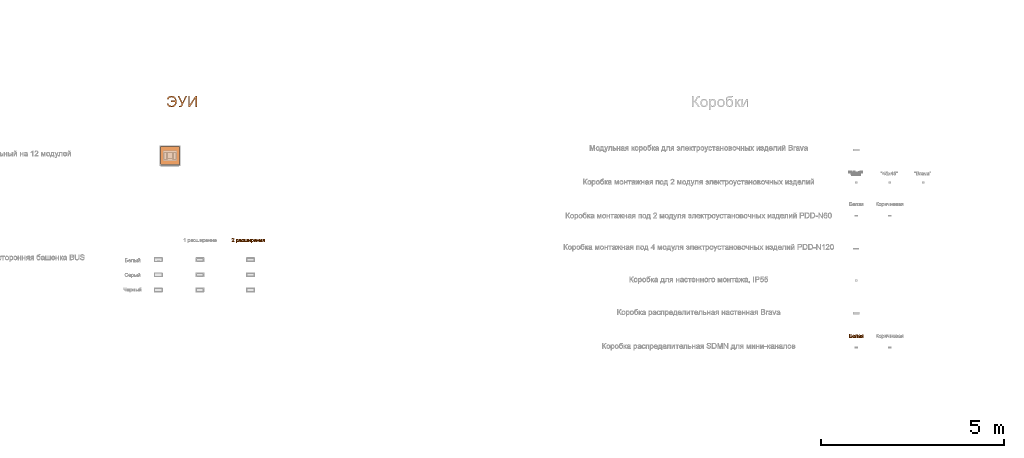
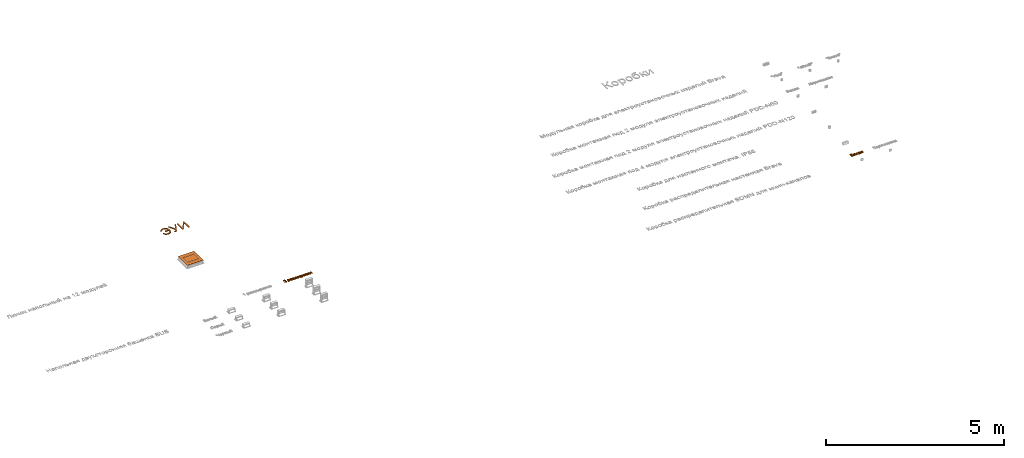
# One storey, part 56 of 87: 5 proxies.
"""IFC2X3 building model written with IfcOpenShell, lengths in millimetres."""

from ifc_helpers import new_model, entity, si_unit, converted_unit, derived_unit, direction, frame, origin, origin_2d_with_axis, place, context, subcontext, project, spatial, polyline, rectangle, outline, extrude, source, transform, mapped, type_object, type_shapes, element, save


model = new_model("IFC2X3")

# Units and contexts
model_context = context("Model", 3, precision=0.01, world=origin(), true_north=direction((6.12303176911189e-17, 1.0)))
body_context = subcontext(model_context, "Body", "Model", "MODEL_VIEW")
ifc_project = project(units=[si_unit("LENGTHUNIT", "METRE", prefix="MILLI"), si_unit("AREAUNIT", "SQUARE_METRE"), si_unit("VOLUMEUNIT", "CUBIC_METRE"), converted_unit("PLANEANGLEUNIT", "DEGREE", entity("IfcRatioMeasure", 0.0174532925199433), si_unit("PLANEANGLEUNIT", "RADIAN"), dimensions=[0, 0, 0, 0, 0, 0, 0]), si_unit("MASSUNIT", "GRAM", prefix="KILO"), derived_unit("MASSDENSITYUNIT", [(si_unit("MASSUNIT", "GRAM", prefix="KILO"), 1), (si_unit("LENGTHUNIT", "METRE"), -3)]), si_unit("TIMEUNIT", "SECOND"), si_unit("FREQUENCYUNIT", "HERTZ"), si_unit("THERMODYNAMICTEMPERATUREUNIT", "DEGREE_CELSIUS"), derived_unit("THERMALTRANSMITTANCEUNIT", [(si_unit("MASSUNIT", "GRAM", prefix="KILO"), 1), (si_unit("THERMODYNAMICTEMPERATUREUNIT", "KELVIN"), -1), (si_unit("TIMEUNIT", "SECOND"), -3)]), derived_unit("VOLUMETRICFLOWRATEUNIT", [(si_unit("LENGTHUNIT", "METRE"), 3), (si_unit("TIMEUNIT", "SECOND"), -1)]), si_unit("ELECTRICCURRENTUNIT", "AMPERE"), si_unit("ELECTRICVOLTAGEUNIT", "VOLT"), si_unit("POWERUNIT", "WATT"), si_unit("FORCEUNIT", "NEWTON", prefix="KILO"), si_unit("ILLUMINANCEUNIT", "LUX"), si_unit("LUMINOUSFLUXUNIT", "LUMEN"), si_unit("LUMINOUSINTENSITYUNIT", "CANDELA"), derived_unit("USERDEFINED", [(si_unit("MASSUNIT", "GRAM", prefix="KILO"), -1), (si_unit("LENGTHUNIT", "METRE"), -2), (si_unit("TIMEUNIT", "SECOND"), 3), (si_unit("LUMINOUSFLUXUNIT", "LUMEN"), 1)]), derived_unit("LINEARVELOCITYUNIT", [(si_unit("LENGTHUNIT", "METRE"), 1), (si_unit("TIMEUNIT", "SECOND"), -1)]), si_unit("PRESSUREUNIT", "PASCAL"), derived_unit("USERDEFINED", [(si_unit("LENGTHUNIT", "METRE"), -2), (si_unit("MASSUNIT", "GRAM", prefix="KILO"), 1), (si_unit("TIMEUNIT", "SECOND"), -2)])], contexts=[model_context])

# Site, building, storey
site_placement = place(None, origin())
site = spatial("IfcSite", under=ifc_project, at=site_placement, Name="Default", CompositionType="ELEMENT")
building_placement = place(site_placement, origin())
building = spatial("IfcBuilding", under=site, at=building_placement, Name="Наименование здания", CompositionType="ELEMENT")
storey_placement = place(building_placement, origin())
storey = spatial("IfcBuildingStorey", under=building, at=storey_placement, Name="Этаж 01", CompositionType="ELEMENT", Elevation=0.0)

# Proxies
building_element_proxy_type_1 = type_object("IfcBuildingElementProxyType", Name="Крышка опалубки для установки лючка In-liner Front 12 модулей", PredefinedType="NOTDEFINED")
shared_shape_1 = source(origin(), body_context, "Body", "SweptSolid", [
    extrude(outline(polyline([(-257.500000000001, -257.500000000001), (257.500000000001, -257.500000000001), (257.500000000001, 257.500000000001), (-257.500000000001, 257.500000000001), (-257.500000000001, -257.500000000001)]), holes=[polyline([(-131.0, -174.500000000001), (-131.0, 174.500000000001), (131.0, 174.500000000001), (131.0, -174.500000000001), (-131.0, -174.500000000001)])]), frame((0.0, 0.0, 0.0), z_axis=(0.0, 0.0, 1.0), x_axis=(-1.0, 0.0, 0.0)), (0.0, 0.0, 1.0), 1.99999999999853),
])
type_shapes(building_element_proxy_type_1, [shared_shape_1])
proxy_1_placement = place(storey_placement, frame((25863.7191062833, 3878.38645848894, -2.0), z_axis=(0.0, 0.0, 1.0), x_axis=(0.0, 1.0, 0.0)))
element("IfcBuildingElementProxy", 1, at=proxy_1_placement, inside=storey, type_object=building_element_proxy_type_1, Name="Крышка опалубки для установки лючка In-liner Front 12 модулей:Крышка опалубки для установки лючка In-liner Front 12 модулей", ObjectType="Крышка опалубки для установки лючка In-liner Front 12 модулей", context=body_context, shape_type="MappedRepresentation", body=[
    mapped(shared_shape_1, transform((0.0, 0.0, 0.0), scale=1.0)),
])
building_element_proxy_type_2 = type_object("IfcBuildingElementProxyType", Name="Крышка опалубки сплошная металлическая", PredefinedType="NOTDEFINED")
shared_shape_2 = source(origin(), body_context, "Body", "SweptSolid", [
    extrude(rectangle(XDim=515.000000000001, YDim=515.000000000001, at=origin_2d_with_axis()), frame((0.0, 0.0, 0.0), z_axis=(0.0, 0.0, 1.0), x_axis=(-1.0, 0.0, 0.0)), (0.0, 0.0, 1.0), 1.99999999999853),
])
type_shapes(building_element_proxy_type_2, [shared_shape_2])
proxy_2_placement = place(storey_placement, frame((25863.7191062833, 3878.38645848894, -2.0)))
element("IfcBuildingElementProxy", 2, at=proxy_2_placement, inside=storey, type_object=building_element_proxy_type_2, Name="Крышка опалубки сплошная металлическая:Крышка опалубки сплошная металлическая", ObjectType="Крышка опалубки сплошная металлическая", context=body_context, shape_type="MappedRepresentation", body=[
    mapped(shared_shape_2, transform((0.0, 0.0, 0.0), scale=1.0)),
])
proxy_3_placement = place(storey_placement, origin())
element("IfcBuildingElementProxy", 3, at=proxy_3_placement, inside=storey, Name="Текст модели:300 мм Arial", ObjectType="Текст модели:300 мм Arial", context=body_context, shape_type="SweptSolid", body=[
    extrude(outline(polyline([(-25.4435605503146, -23.0847510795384), (12.2275557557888, -23.0847510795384), (12.2275557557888, 89.9285978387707), (35.0132468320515, 87.2798474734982), (55.2513550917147, 81.6144647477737), (72.9418805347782, 72.9324496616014), (88.0848231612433, 61.2338022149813), (100.220330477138, 47.0979365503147), (108.888549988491, 31.1042668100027), (114.089481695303, 13.2527929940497), (115.823125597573, -6.45648489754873), (111.408541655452, -39.7130172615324), (98.1647898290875, -66.1269445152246), (76.0918701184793, -85.6982666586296), (45.1897825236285, -98.4269836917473), (54.6075616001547, -136.098099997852), (77.784127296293, -128.441555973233), (97.8704842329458, -118.494946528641), (114.866632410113, -106.258271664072), (128.772571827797, -91.7315313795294), (139.588302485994, -74.9147256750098), (147.313824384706, -55.8078545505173), (151.949137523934, -34.4109180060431), (153.494241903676, -10.7239160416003), (150.631660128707, 22.5740030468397), (142.043914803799, 51.3193824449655), (127.731005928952, 75.5122221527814), (107.692933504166, 95.1525221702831), (83.4610063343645, 110.20349429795), (56.5665332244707, 120.628350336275), (27.0095141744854, 126.427090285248), (-5.21005081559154, 127.599714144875), (-44.3986803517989, 123.7461502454), (-80.0004604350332, 112.185458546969), (-110.792183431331, 92.6601216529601), (-135.550641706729, 64.9126221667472), (-151.857011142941, 29.9822267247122), (-157.292467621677, -11.0917980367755), (-155.811742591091, -33.4268336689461), (-151.369567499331, -53.8580799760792), (-143.965942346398, -72.3855369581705), (-133.600867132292, -89.0092046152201), (-120.605435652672, -103.411784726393), (-105.310741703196, -115.275979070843), (-87.7167852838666, -124.601787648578), (-67.8235663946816, -131.389210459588), (-58.4057873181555, -93.7180941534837), (-85.1875965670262, -81.86769538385), (-104.317460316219, -63.8276820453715), (-115.795378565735, -39.5980541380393), (-119.621351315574, -9.17881166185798), (-118.032560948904, 12.222723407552), (-113.266189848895, 31.1778432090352), (-105.322238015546, 47.686547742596), (-94.2007054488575, 61.7488370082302), (-80.3706416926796, 73.1393832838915), (-64.3010962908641, 81.6328588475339), (-45.9920692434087, 87.2292636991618), (-25.4435605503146, 89.9285978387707), (-25.4435605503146, -23.0847510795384)])), frame((25915.3287356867, 5358.47571636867, 0.0), z_axis=(0.0, 0.0, 1.0), x_axis=(0.0, -1.0, 0.0)), (0.0, 0.0, 1.0), 20.0),
    extrude(outline(polyline([(-225.001635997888, -0.547980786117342), (-206.191871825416, -37.7846445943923), (-6.23048291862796, -37.7536486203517), (-128.995538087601, -190.606014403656), (-110.351644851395, -227.51431256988), (47.6254467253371, -19.5337663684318), (72.3788413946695, 12.3208103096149), (85.0804981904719, 34.2545297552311), (87.5329266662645, 52.0413287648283), (81.5386363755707, 71.4551441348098), (62.0422558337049, 99.6073083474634), (32.62069430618, 84.7452724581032), (45.9898917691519, 58.279001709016), (49.4675453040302, 46.743745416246), (48.4222371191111, 34.8608789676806), (40.5450666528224, 19.9803282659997), (23.527133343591, -0.547980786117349), (-225.001635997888, -0.547980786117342)])), frame((26174.4960353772, 5309.97932391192, 0.0), z_axis=(0.0, 0.0, -1.0), x_axis=(0.450880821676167, -0.892584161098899, 0.0)), (0.0, 0.0, -1.0), 20.0),
    extrude(outline(polyline([(-150.750683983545, -117.759026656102), (150.618246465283, -117.759026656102), (150.618246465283, -77.3655835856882), (-87.4014044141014, 80.0143339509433), (150.618246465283, 80.0143339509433), (150.618246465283, 117.685450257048), (-150.750683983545, 117.685450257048), (-150.750683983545, 77.6598891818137), (87.931154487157, -80.0879103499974), (-150.750683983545, -80.0879103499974), (-150.750683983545, -117.759026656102)])), frame((26480.8919650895, 5360.30861046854, 0.0), z_axis=(0.0, 0.0, 1.0), x_axis=(0.0, -1.0, 0.0)), (0.0, 0.0, 1.0), 20.0),
])
proxy_4_placement = place(storey_placement, origin())
element("IfcBuildingElementProxy", 4, at=proxy_4_placement, inside=storey, Name="Текст модели:100 мм Arial", ObjectType="Текст модели:100 мм Arial", context=body_context, shape_type="SweptSolid", body=[
    extrude(outline(polyline([(-50.9950475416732, -42.7620371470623), (49.4612626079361, -42.7620371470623), (49.4612626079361, -4.42873324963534), (45.2428823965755, 17.8649156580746), (34.3658380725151, 27.7118903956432), (20.0552284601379, 31.0105656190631), (3.57411507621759, 26.3752524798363), (-6.06439319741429, 14.0389429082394), (-8.61504169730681, -6.68507615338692), (-8.61504169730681, -30.2049983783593), (-38.4380087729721, -30.2049983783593), (-38.4380087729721, 20.0231566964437), (-50.9950475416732, 20.0231566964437), (-50.9950475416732, -42.7620371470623)]), holes=[polyline([(36.904223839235, -30.2049983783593), (3.94199707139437, -30.2049983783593), (3.94199707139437, -12.2523570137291), (5.24184678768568, 6.66904027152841), (10.4902965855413, 15.3387926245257), (20.3250085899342, 18.4535268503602), (27.5784152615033, 17.0923634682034), (32.7594200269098, 13.0088733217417), (36.904223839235, -3.30056179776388), (36.904223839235, -30.2049983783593)])]), frame((44477.0056436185, -1044.29596302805, 0.0), z_axis=(0.0, 0.0, 1.0), x_axis=(0.0, -1.0, 0.0)), (0.0, 0.0, 1.0), 20.0),
    extrude(outline(polyline([(-8.10128238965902, -20.3751729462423), (-15.5352214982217, -30.3140016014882), (-5.78400372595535, -33.5775071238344), (4.12185089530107, -33.3132173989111), (13.8776168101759, -29.4480778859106), (23.1785684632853, -21.9090340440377), (31.6380426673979, -9.5923795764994), (34.1620486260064, 3.74135328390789), (30.6040508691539, 17.2442201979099), (20.8175139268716, 30.0682768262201), (7.27698270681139, 39.7846728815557), (-6.66179525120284, 43.1117813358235), (-19.964259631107, 40.4221234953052), (-31.5958501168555, 32.088220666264), (-39.2435519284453, 20.5090048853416), (-41.3106827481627, 7.34319797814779), (-37.4373707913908, -6.34962495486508), (-27.2637442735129, -19.5098888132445), (-24.7804584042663, -21.8106804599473), (14.4643272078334, 18.7422646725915), (19.7071986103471, 10.643799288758), (21.1614672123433, 2.21005051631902), (19.147208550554, -5.98136753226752), (13.9844981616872, -13.3528407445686), (3.53684605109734, -20.3751729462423), (-8.10128238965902, -20.3751729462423)]), holes=[polyline([(5.44081225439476, 27.4746984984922), (-25.1227061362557, -4.10760383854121), (-29.8038819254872, 7.41909510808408), (-27.885134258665, 15.7498710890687), (-22.5382240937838, 23.3910349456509), (-8.40970331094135, 31.2368652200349), (-1.08072680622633, 30.9147288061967), (5.44081225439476, 27.4746984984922)])]), frame((44555.0876915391, -1063.43467481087, 0.0), z_axis=(0.0, 0.0, -1.0), x_axis=(-0.695421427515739, -0.718602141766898, 0.0)), (0.0, 0.0, -1.0), 20.0),
    extrude(outline(polyline([(-49.3689973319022, 12.5447760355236), (-49.3689973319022, -43.9618984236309), (24.330029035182, -43.9618984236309), (24.330029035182, -31.404859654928), (-36.811958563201, -31.404859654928), (-36.811958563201, -0.0122627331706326), (-1.61791435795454, -0.0122627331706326), (14.6179443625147, 0.833865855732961), (21.4728122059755, 5.4814417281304), (24.4036054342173, 16.4688506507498), (23.7659433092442, 26.6714446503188), (11.8465666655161, 26.6714446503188), (11.8465666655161, 21.0551128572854), (11.0740144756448, 15.3774673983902), (8.62146784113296, 13.108861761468), (-2.3291528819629, 12.5447760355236), (-49.3689973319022, 12.5447760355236)])), frame((44619.4476655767, -1069.35362020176, 0.0), z_axis=(0.0, 0.0, -1.0), x_axis=(0.0, -1.0, 0.0)), (0.0, 0.0, -1.0), 20.0),
    extrude(outline(polyline([(32.050823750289, 7.88266535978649), (41.9780345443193, 7.88266535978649), (45.9489188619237, 19.7953183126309), (35.1414436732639, 20.7608946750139), (14.2438893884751, 27.0545912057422), (-0.577126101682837, 31.9949297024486), (-11.1945882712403, 34.8877809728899), (-20.4974705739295, 33.9299602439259), (-28.5323068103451, 27.5470739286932), (-35.4619652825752, 13.8157249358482), (-38.3044049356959, -2.69989645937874), (-34.9462156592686, -15.34933458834), (-25.0306383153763, -24.3807697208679), (-19.5706723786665, -12.964477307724), (-25.7868125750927, -4.50695904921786), (-24.0611841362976, 8.30922519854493), (-16.2279943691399, 20.3304570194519), (-6.33956174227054, 20.6794605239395), (-3.71040200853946, 19.725517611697), (-6.50243004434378, -2.30048133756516), (-8.14662433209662, -13.2049019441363), (-7.01817966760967, -22.8490321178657), (-2.17478658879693, -31.1204151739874), (6.48825595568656, -36.5416029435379), (15.0010331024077, -37.7020395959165), (22.9495879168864, -35.3200906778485), (29.6378522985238, -29.3899394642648), (34.3697581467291, -19.9057692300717), (36.2737661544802, -6.36055543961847), (32.050823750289, 7.88266535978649)]), holes=[polyline([(8.22551784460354, 15.8244339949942), (11.5759514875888, 14.6300664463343), (20.1614376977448, 9.67421668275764), (24.4696920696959, -0.396473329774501), (23.3024692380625, -13.3987927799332), (17.24919734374, -22.9498553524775), (9.62153186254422, -24.349747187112), (5.58084684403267, -21.1932043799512), (3.98706417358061, -15.5044472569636), (5.47226797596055, -4.61166010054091), (8.22551784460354, 15.8244339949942)])]), frame((44711.7205041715, -1056.42608303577, 0.0), z_axis=(0.0, 0.0, 1.0), x_axis=(0.316227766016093, -0.948683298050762, 0.0)), (0.0, 0.0, 1.0), 20.0),
    extrude(outline(polyline([(-36.1880068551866, -39.1855638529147), (-3.42198381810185, -39.1855638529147), (7.43666640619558, -37.7079045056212), (15.3890488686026, -33.2749264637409), (20.2634853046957, -26.4691095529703), (21.8882974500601, -17.8729335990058), (17.1303569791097, -3.64816311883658), (11.0970922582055, 1.34890064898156), (2.51317903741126, 3.97925691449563), (13.2062823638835, 14.4271055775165), (25.8123720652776, 34.5870389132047), (11.2932959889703, 34.5870389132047), (1.28690572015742, 18.6454857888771), (-7.46868576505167, 7.92785699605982), (-16.7883629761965, 6.33370168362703), (-23.6309680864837, 6.33370168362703), (-23.6309680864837, 34.5870389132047), (-36.1880068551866, 34.5870389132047), (-36.1880068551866, -39.1855638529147)]), holes=[polyline([(-23.6309680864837, -26.6285250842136), (-23.6309680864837, -6.22333708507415), (-10.7796237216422, -6.22333708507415), (4.90441200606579, -8.81077378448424), (9.33125868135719, -16.9164404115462), (6.3268890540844, -23.7222573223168), (-7.07627830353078, -26.6285250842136), (-23.6309680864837, -26.6285250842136)])]), frame((44779.4756522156, -1059.17018672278, 0.0), z_axis=(0.0, 0.0, 1.0), x_axis=(-1.0, 0.0, 0.0)), (0.0, 0.0, 1.0), 20.0),
])
proxy_5_placement = place(storey_placement, origin())
element("IfcBuildingElementProxy", 5, at=proxy_5_placement, inside=storey, Name="Текст модели:100 мм Arial", ObjectType="Текст модели:100 мм Arial", context=body_context, shape_type="SweptSolid", body=[
    extrude(outline(polyline([(-32.3858783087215, -45.1669477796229), (-32.3858783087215, -57.7239865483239), (33.5385752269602, -57.7239865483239), (32.1896745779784, -49.0664969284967), (24.5622545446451, -35.7369059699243), (8.84143061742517, -21.1810416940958), (-12.8390816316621, -0.260818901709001), (-18.2592096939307, 13.9639515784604), (-13.1456499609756, 25.4786580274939), (0.208466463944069, 30.1752848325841), (14.1266686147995, 25.5890226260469), (19.4119066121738, 12.90935652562), (31.9689453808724, 14.4789863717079), (28.9247218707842, 26.6252235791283), (22.3426998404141, 35.4973110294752), (12.5662358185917, 40.9235704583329), (-0.061313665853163, 42.7323236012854), (-12.7808336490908, 40.7212353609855), (-22.5389035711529, 34.6879706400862), (-28.7469122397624, 25.6748617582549), (-30.8162484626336, 14.724241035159), (-28.5844310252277, 2.81712712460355), (-21.1654774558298, -9.49465698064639), (-3.1760478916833, -26.6992716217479), (11.2694517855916, -38.7780637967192), (16.9348345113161, -45.1669477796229), (-32.3858783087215, -45.1669477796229)])), frame((27584.3175603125, 1581.10016121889, 0.0), z_axis=(0.0, 0.0, -1.0), x_axis=(-1.0, 0.0, 0.0)), (0.0, 0.0, -1.0), 20.0),
    extrude(outline(polyline([(-28.8983569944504, -61.2335493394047), (-16.3413182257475, -61.2335493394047), (-16.3413182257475, -23.1700255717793), (-8.38280439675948, -31.3247431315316), (2.54329085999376, -34.5498419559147), (18.4235303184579, -29.7305878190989), (29.9259740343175, -15.8736993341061), (33.8868368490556, 4.47017499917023), (30.3796951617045, 23.8207679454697), (19.9808974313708, 37.5059781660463), (4.06386977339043, 42.3620205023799), (-7.65930313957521, 38.8916670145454), (-16.3413182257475, 28.4806065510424), (-16.3413182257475, 40.7923906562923), (-28.8983569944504, 40.7923906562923), (-28.8983569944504, -61.2335493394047)]), holes=[polyline([(-16.3413182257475, 3.31747808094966), (-14.8912500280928, 14.7064915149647), (-10.5410454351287, 23.0236902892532), (-4.30851130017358, 28.1096588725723), (2.7885455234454, 29.8049817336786), (9.85801119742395, 28.210826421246), (15.8606190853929, 23.4283604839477), (19.9625033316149, 15.4453211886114), (21.3297980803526, 4.24944580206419), (19.9287808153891, -7.43080754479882), (15.7257290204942, -15.5916564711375), (9.56063991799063, -20.3925165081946), (2.27351073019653, -21.9928031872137), (-4.89712249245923, -20.4476988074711), (-10.908927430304, -15.8123856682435), (-14.9832205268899, -7.9397109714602), (-16.3413182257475, 3.31747808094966)])]), frame((27700.5388402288, 1556.35638678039, 0.0)), (0.0, 0.0, 1.0), 20.0),
    extrude(outline(polyline([(32.0508237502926, 7.88266535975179), (41.9780345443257, 7.88266535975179), (45.9489188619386, 19.7953183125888), (35.1414436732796, 20.7608946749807), (14.2438893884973, 27.0545912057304), (-0.577126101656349, 31.994929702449), (-11.194588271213, 34.8877809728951), (-20.4974705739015, 33.9299602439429), (-28.5323068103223, 27.5470739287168), (-35.4619652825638, 13.8157249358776), (-38.3044049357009, -2.69989645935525), (-34.9462156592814, -15.349334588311), (-25.0306383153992, -24.3807697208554), (-19.5706723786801, -12.964477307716), (-25.7868125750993, -4.50695904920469), (-24.061184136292, 8.30922519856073), (-16.2279943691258, 20.3304570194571), (-6.33956174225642, 20.6794605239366), (-3.71040200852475, 19.7255176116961), (-6.50243004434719, -2.30048133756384), (-8.14662433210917, -13.2049019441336), (-7.01817966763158, -22.849032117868), (-2.17478658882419, -31.1204151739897), (6.48825595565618, -36.5416029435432), (15.0010331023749, -37.7020395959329), (22.9495879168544, -35.3200906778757), (29.6378522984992, -29.3899394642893), (34.3697581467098, -19.9057692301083), (36.2737661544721, -6.36055543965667), (32.0508237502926, 7.88266535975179)]), holes=[polyline([(8.22551784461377, 15.8244339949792), (11.5759514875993, 14.6300664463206), (20.1614376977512, 9.67421668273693), (24.4696920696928, -0.396473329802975), (23.30246923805, -13.3987927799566), (17.2491973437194, -22.9498553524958), (9.62153186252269, -24.349747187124), (5.58084684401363, -21.1932043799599), (3.98706417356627, -15.5044472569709), (5.47226797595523, -4.61166010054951), (8.22551784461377, 15.8244339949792)])]), frame((27778.0277277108, 1560.70731727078, 0.0), z_axis=(0.0, 0.0, 1.0), x_axis=(0.316227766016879, -0.9486832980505, 0.0)), (0.0, 0.0, 1.0), 20.0),
    extrude(outline(polyline([(0.267683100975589, -20.7200562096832), (-4.02278247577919, -32.6253015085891), (7.51957889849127, -34.5647704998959), (18.0242916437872, -32.5240986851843), (26.8500141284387, -26.8719753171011), (33.3554047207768, -17.9770896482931), (37.2076783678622, -4.95154901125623), (35.3403176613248, 7.7141574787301), (27.6846262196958, 19.1676933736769), (14.1719076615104, 28.5567222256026), (-6.16200624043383, 34.5864889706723), (-23.4110955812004, 30.2307841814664), (-35.1302422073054, 17.0254849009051), (-38.5714296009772, 6.87231136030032), (-38.3156698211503, -2.77330902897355), (-34.4593562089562, -11.5597521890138), (-27.0988821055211, -19.135394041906), (-20.0099089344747, -8.65257858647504), (-25.7552259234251, 0.801697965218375), (-23.9806627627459, 11.2483121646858), (-18.9208808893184, 17.7794646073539), (-11.8538304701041, 21.4126833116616), (-2.81100512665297, 21.5312059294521), (8.17610151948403, 17.5182701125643), (18.0468481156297, 10.963933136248), (23.347053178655, 3.658281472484), (24.6053297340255, -4.07586677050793), (22.3502908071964, -11.915693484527), (13.555852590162, -20.7200562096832), (0.267683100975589, -20.7200562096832)])), frame((27854.2034033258, 1559.68697330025, 0.0), z_axis=(0.0, 0.0, -1.0), x_axis=(-0.453109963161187, -0.891454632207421, 0.0)), (0.0, 0.0, -1.0), 20.0),
    extrude(outline(polyline([(-32.7006217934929, -47.0888953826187), (41.0719809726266, -47.0888953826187), (41.0719809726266, 47.0888953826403), (-32.7006217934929, 47.0888953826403), (-32.7006217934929, 34.5318566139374), (28.5149422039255, 34.5318566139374), (28.5149422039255, 6.27851938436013), (-32.7006217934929, 6.27851938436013), (-32.7006217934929, -6.2785193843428), (28.5149422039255, -6.2785193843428), (28.5149422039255, -34.5318566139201), (-32.7006217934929, -34.5318566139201), (-32.7006217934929, -47.0888953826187)])), frame((27943.1864466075, 1564.44815564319, 0.0), z_axis=(0.0, 0.0, 1.0), x_axis=(0.0, -1.0, 0.0)), (0.0, 0.0, 1.0), 20.0),
    extrude(outline(polyline([(-36.9206370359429, -29.8425874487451), (36.8519657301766, -29.8425874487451), (36.8519657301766, -13.4105249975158), (-19.0660975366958, 17.2463079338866), (36.8519657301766, 17.2463079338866), (36.8519657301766, 29.8033467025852), (-36.9206370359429, 29.8033467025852), (-36.9206370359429, 13.5674879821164), (19.3407827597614, -17.2855486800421), (-36.9206370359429, -17.2855486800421), (-36.9206370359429, -29.8425874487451)])), frame((28037.3838577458, 1560.22814040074, 0.0), z_axis=(0.0, 0.0, 1.0), x_axis=(0.0, -1.0, 0.0)), (0.0, 0.0, 1.0), 20.0),
    extrude(outline(polyline([(-28.8983569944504, -61.2335493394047), (-16.3413182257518, -61.2335493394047), (-16.3413182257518, -23.1700255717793), (-8.38280439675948, -31.3247431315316), (2.54329085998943, -34.5498419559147), (18.4235303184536, -29.7305878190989), (29.9259740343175, -15.8736993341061), (33.8868368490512, 4.47017499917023), (30.3796951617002, 23.8207679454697), (19.9808974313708, 37.5059781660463), (4.0638697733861, 42.3620205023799), (-7.65930313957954, 38.8916670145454), (-16.3413182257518, 28.4806065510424), (-16.3413182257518, 40.7923906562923), (-28.8983569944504, 40.7923906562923), (-28.8983569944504, -61.2335493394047)]), holes=[polyline([(-16.3413182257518, 3.31747808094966), (-14.8912500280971, 14.7064915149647), (-10.5410454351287, 23.0236902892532), (-4.30851130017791, 28.1096588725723), (2.78854552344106, 29.8049817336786), (9.85801119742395, 28.210826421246), (15.8606190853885, 23.4283604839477), (19.9625033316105, 15.4453211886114), (21.3297980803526, 4.24944580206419), (19.9287808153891, -7.43080754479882), (15.7257290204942, -15.5916564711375), (9.56063991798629, -20.3925165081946), (2.2735107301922, -21.9928031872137), (-4.89712249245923, -20.4476988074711), (-10.9089274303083, -15.8123856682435), (-14.9832205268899, -7.9397109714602), (-16.3413182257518, 3.31747808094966)])]), frame((28114.9211195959, 1556.35638678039, 0.0)), (0.0, 0.0, 1.0), 20.0),
    extrude(outline(polyline([(-8.10128238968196, -20.3751729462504), (-15.5352214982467, -30.3140016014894), (-5.78400372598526, -33.5775071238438), (4.12185089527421, -33.3132173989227), (13.8776168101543, -29.4480778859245), (23.1785684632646, -21.9090340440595), (31.6380426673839, -9.59237957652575), (34.1620486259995, 3.74135328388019), (30.6040508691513, 17.2442201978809), (20.8175139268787, 30.0682768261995), (7.27698270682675, 39.7846728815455), (-6.66179525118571, 43.1117813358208), (-19.9642596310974, 40.4221234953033), (-31.5958501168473, 32.0882206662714), (-39.2435519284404, 20.5090048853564), (-41.3106827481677, 7.34319797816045), (-37.437370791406, -6.3496249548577), (-27.2637442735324, -19.5098888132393), (-24.78045840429, -21.8106804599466), (14.4643272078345, 18.7422646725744), (19.7071986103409, 10.6437992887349), (21.1614672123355, 2.21005051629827), (19.1472085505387, -5.98136753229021), (13.9844981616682, -13.3528407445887), (3.53684605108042, -20.3751729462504), (-8.10128238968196, -20.3751729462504)]), holes=[polyline([(5.44081225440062, 27.4746984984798), (-25.1227061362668, -4.1076038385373), (-29.8038819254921, 7.41909510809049), (-27.8851342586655, 15.7498710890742), (-22.5382240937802, 23.3910349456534), (-8.4097033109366, 31.2368652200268), (-1.08072680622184, 30.9147288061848), (5.44081225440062, 27.4746984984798)])]), frame((28194.3098089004, 1553.69872549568, 0.0), z_axis=(0.0, 0.0, -1.0), x_axis=(-0.695421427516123, -0.718602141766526, 0.0)), (0.0, 0.0, -1.0), 20.0),
    extrude(outline(polyline([(-36.1014864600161, -29.0381521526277), (37.6711163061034, -29.0381521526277), (37.6711163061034, -16.4811133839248), (4.70888953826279, -16.4811133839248), (4.70888953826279, 16.4811133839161), (37.6711163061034, 16.4811133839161), (37.6711163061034, 29.038152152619), (-36.1014864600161, 29.038152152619), (-36.1014864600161, 16.4811133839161), (-7.84814923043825, 16.4811133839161), (-7.84814923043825, -16.4811133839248), (-36.1014864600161, -16.4811133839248), (-36.1014864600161, -29.0381521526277)])), frame((28268.8846396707, 1561.04729097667, 0.0), z_axis=(0.0, 0.0, 1.0), x_axis=(0.0, -1.0, 0.0)), (0.0, 0.0, 1.0), 20.0),
    extrude(outline(polyline([(-36.9206370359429, -29.8425874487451), (36.8519657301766, -29.8425874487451), (36.8519657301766, -13.4105249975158), (-19.0660975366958, 17.2463079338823), (36.8519657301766, 17.2463079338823), (36.8519657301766, 29.8033467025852), (-36.9206370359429, 29.8033467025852), (-36.9206370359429, 13.5674879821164), (19.3407827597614, -17.2855486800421), (-36.9206370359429, -17.2855486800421), (-36.9206370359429, -29.8425874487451)])), frame((28346.6009374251, 1560.22814040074, 0.0), z_axis=(0.0, 0.0, 1.0), x_axis=(0.0, -1.0, 0.0)), (0.0, 0.0, 1.0), 20.0),
    extrude(outline(polyline([(-36.1880068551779, -39.185563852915), (-3.42198381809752, -39.185563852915), (7.43666640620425, -37.7079045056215), (15.3890488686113, -33.2749264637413), (20.2634853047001, -26.4691095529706), (21.8882974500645, -17.8729335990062), (17.130356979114, -3.64816311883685), (11.0970922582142, 1.34890064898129), (2.51317903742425, 3.97925691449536), (13.2062823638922, 14.4271055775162), (25.8123720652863, 34.5870389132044), (11.2932959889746, 34.5870389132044), (1.28690572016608, 18.6454857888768), (-7.46868576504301, 7.92785699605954), (-16.7883629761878, 6.33370168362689), (-23.630968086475, 6.33370168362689), (-23.630968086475, 34.5870389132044), (-36.1880068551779, 34.5870389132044), (-36.1880068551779, -39.185563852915)]), holes=[polyline([(-23.630968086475, -26.6285250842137), (-23.630968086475, -6.22333708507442), (-10.7796237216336, -6.22333708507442), (4.90441200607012, -8.81077378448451), (9.33125868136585, -16.9164404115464), (6.32688905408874, -23.7222573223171), (-7.07627830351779, -26.6285250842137), (-23.630968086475, -26.6285250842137)])]), frame((28415.5585098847, 1557.96321358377, 0.0), z_axis=(0.0, 0.0, 1.0), x_axis=(-1.0, 0.0, 0.0)), (0.0, 0.0, 1.0), 20.0),
])

save(model, "model.ifc")
